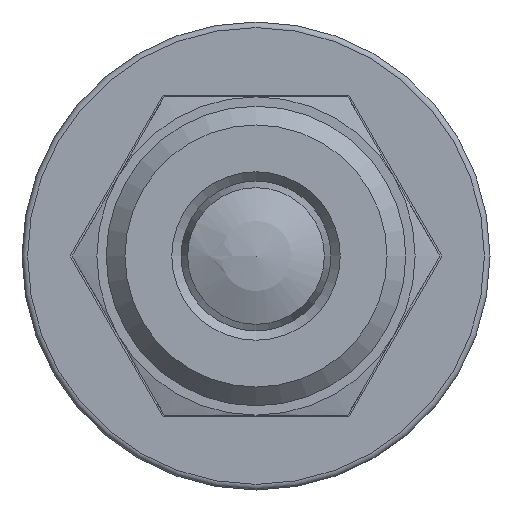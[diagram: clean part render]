
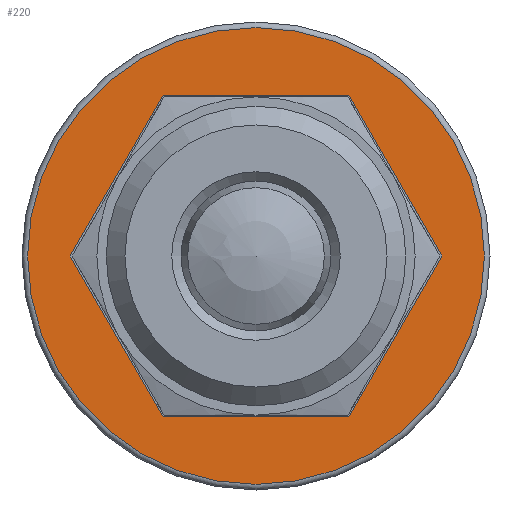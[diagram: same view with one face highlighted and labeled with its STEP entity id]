
A CAD part, front view. The second image highlights one B-rep face of the part: STEP entity #220.
In plain terms, the highlighted planar face has unit normal (0, -1, 0).
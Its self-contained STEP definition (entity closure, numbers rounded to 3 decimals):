
#220 = ADVANCED_FACE( '', ( #379, #380 ), #381, .F. );
#379 = FACE_BOUND( '', #600, .T. );
#380 = FACE_OUTER_BOUND( '', #601, .T. );
#381 = PLANE( '', #602 );
#600 = EDGE_LOOP( '', ( #939, #940, #941, #942, #943, #944 ) );
#601 = EDGE_LOOP( '', ( #945 ) );
#602 = AXIS2_PLACEMENT_3D( '', #946, #947, #948 );
#939 = ORIENTED_EDGE( '', *, *, #1116, .F. );
#940 = ORIENTED_EDGE( '', *, *, #1117, .F. );
#941 = ORIENTED_EDGE( '', *, *, #1118, .F. );
#942 = ORIENTED_EDGE( '', *, *, #1119, .F. );
#943 = ORIENTED_EDGE( '', *, *, #1120, .F. );
#944 = ORIENTED_EDGE( '', *, *, #1105, .F. );
#945 = ORIENTED_EDGE( '', *, *, #1121, .T. );
#946 = CARTESIAN_POINT( '', ( 12.2, 28.997, 0. ) );
#947 = DIRECTION( '', ( 0., 1., 0. ) );
#948 = DIRECTION( '', ( 0., 0., 1. ) );
#1105 = EDGE_CURVE( '', #1254, #1255, #1256, .T. );
#1116 = EDGE_CURVE( '', #1275, #1254, #1276, .T. );
#1117 = EDGE_CURVE( '', #1277, #1275, #1278, .T. );
#1118 = EDGE_CURVE( '', #1279, #1277, #1280, .T. );
#1119 = EDGE_CURVE( '', #1281, #1279, #1282, .T. );
#1120 = EDGE_CURVE( '', #1255, #1281, #1283, .T. );
#1121 = EDGE_CURVE( '', #1284, #1284, #1285, .T. );
#1254 = VERTEX_POINT( '', #1534 );
#1255 = VERTEX_POINT( '', #1535 );
#1256 = LINE( '', #1536, #1537 );
#1275 = VERTEX_POINT( '', #1564 );
#1276 = LINE( '', #1565, #1566 );
#1277 = VERTEX_POINT( '', #1567 );
#1278 = LINE( '', #1568, #1569 );
#1279 = VERTEX_POINT( '', #1570 );
#1280 = LINE( '', #1571, #1572 );
#1281 = VERTEX_POINT( '', #1573 );
#1282 = LINE( '', #1574, #1575 );
#1283 = LINE( '', #1576, #1577 );
#1284 = VERTEX_POINT( '', #1578 );
#1285 = CIRCLE( '', #1579, 12.2 );
#1534 = CARTESIAN_POINT( '', ( 4.965, 28.997, 8.6 ) );
#1535 = CARTESIAN_POINT( '', ( -4.965, 28.997, 8.6 ) );
#1536 = CARTESIAN_POINT( '', ( 4.965, 28.997, 8.6 ) );
#1537 = VECTOR( '', #1735, 1000. );
#1564 = CARTESIAN_POINT( '', ( 9.93, 28.997, 0. ) );
#1565 = CARTESIAN_POINT( '', ( 9.93, 28.997, 0. ) );
#1566 = VECTOR( '', #1750, 1000. );
#1567 = CARTESIAN_POINT( '', ( 4.965, 28.997, -8.6 ) );
#1568 = CARTESIAN_POINT( '', ( 4.965, 28.997, -8.6 ) );
#1569 = VECTOR( '', #1751, 1000. );
#1570 = CARTESIAN_POINT( '', ( -4.965, 28.997, -8.6 ) );
#1571 = CARTESIAN_POINT( '', ( -4.965, 28.997, -8.6 ) );
#1572 = VECTOR( '', #1752, 1000. );
#1573 = CARTESIAN_POINT( '', ( -9.93, 28.997, 0. ) );
#1574 = CARTESIAN_POINT( '', ( -9.93, 28.997, 0. ) );
#1575 = VECTOR( '', #1753, 1000. );
#1576 = CARTESIAN_POINT( '', ( -4.965, 28.997, 8.6 ) );
#1577 = VECTOR( '', #1754, 1000. );
#1578 = CARTESIAN_POINT( '', ( 0., 28.997, -12.2 ) );
#1579 = AXIS2_PLACEMENT_3D( '', #1755, #1756, #1757 );
#1735 = DIRECTION( '', ( -1., 0., 0. ) );
#1750 = DIRECTION( '', ( -0.5, 0., 0.866 ) );
#1751 = DIRECTION( '', ( 0.5, 0., 0.866 ) );
#1752 = DIRECTION( '', ( 1., 0., 0. ) );
#1753 = DIRECTION( '', ( 0.5, 0., -0.866 ) );
#1754 = DIRECTION( '', ( -0.5, 0., -0.866 ) );
#1755 = CARTESIAN_POINT( '', ( 0., 28.997, 0. ) );
#1756 = DIRECTION( '', ( 0., -1., 0. ) );
#1757 = DIRECTION( '', ( 0., 0., -1. ) );
